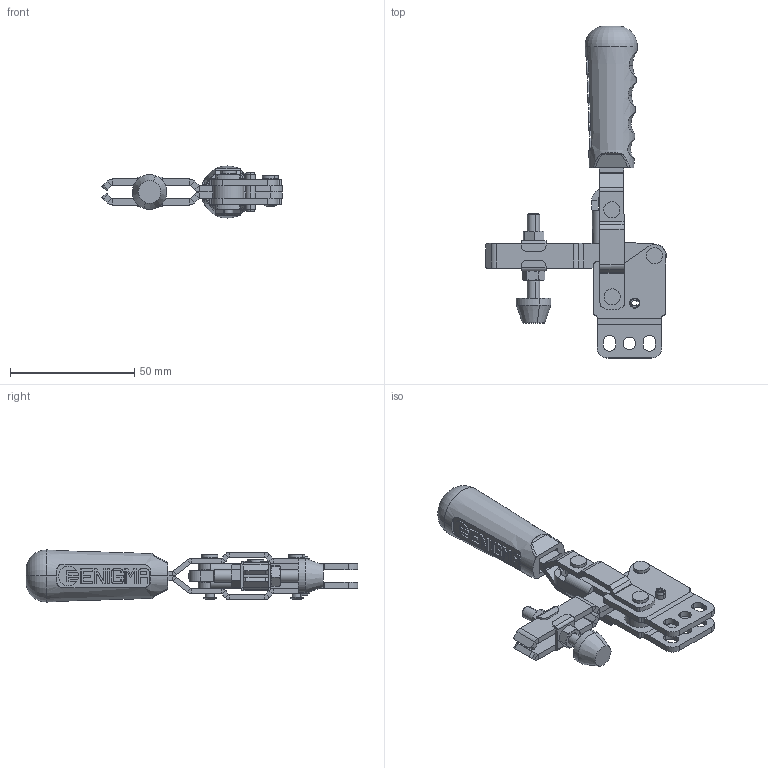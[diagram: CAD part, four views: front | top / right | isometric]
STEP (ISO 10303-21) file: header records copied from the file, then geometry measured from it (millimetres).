
FILE_DESCRIPTION (( 'STEP AP214' ), '1' );
FILE_NAME ('1101-D.STEP', '2022-05-30T09:56:30', ( '' ), ( '' ), 'SwSTEP 2.0', 'SolidWorks 2020', '' );
FILE_SCHEMA (( 'AUTOMOTIVE_DESIGN' ));
Length unit declared in the file: millimetre
Products named in the file (17): Ø12,5xØ7,5x5_YÜZÜK; 4x12_5_PERﾇﾝN; M5 Aský; 1101 BASKI KOLU_2022; 7x4x10_BURÇ; M5_BASKI_PABUCU; M5 Somun; Aynalama1101 HAREKET KOLU_2022; 4x17_PERﾇﾝN; 1101 MAFSAL_2022; 1101-D; Aynalama1101 Y Gövde_2022; 4x16_YARIKLI_P嵱; C55_Yeni_Tutamak; M5_BASKI_GRUBU^1101 Y-D MONTAJ; 1101 Y Gövde_2022; 1101 HAREKET KOLU_2022
Assembly tree (21 placements, depth 3):
  1101-D
    1101 Y Gövde_2022
    1101 BASKI KOLU_2022  x2
    1101 HAREKET KOLU_2022
    1101 MAFSAL_2022
    4x12_5_PERﾇﾝN  x2
    4x17_PERﾇﾝN  x2
    7x4x10_BURÇ
    Ø12,5xØ7,5x5_YÜZÜK
    Aynalama1101 Y Gövde_2022
    Aynalama1101 HAREKET KOLU_2022
    4x16_YARIKLI_P嵱
    C55_Yeni_Tutamak
    M5_BASKI_GRUBU^1101 Y-D MONTAJ
      M5 Aský  x2
      M5 Somun  x2
      M5_BASKI_PABUCU
Bounding box: 72.58 x 133.48 x 20.98 mm (x, y, z)
Volume: 31044.3 mm3; surface area: 26292.9 mm2
Topology: 20 solids, 20 shells, 921 faces, 2234 edges, 1382 vertices
Faces by surface type: plane 580, cylinder 263, cone 36, torus 34, bspline 8
Entity records: 23172 total; most frequent: CARTESIAN_POINT 5194, DIRECTION 3655, ORIENTED_EDGE 3494, EDGE_CURVE 1747, AXIS2_PLACEMENT_3D 1243, VECTOR 1169, LINE 1169, VERTEX_POINT 1084
